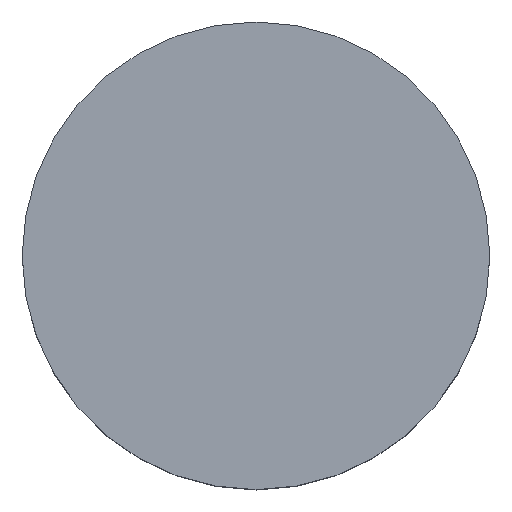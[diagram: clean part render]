
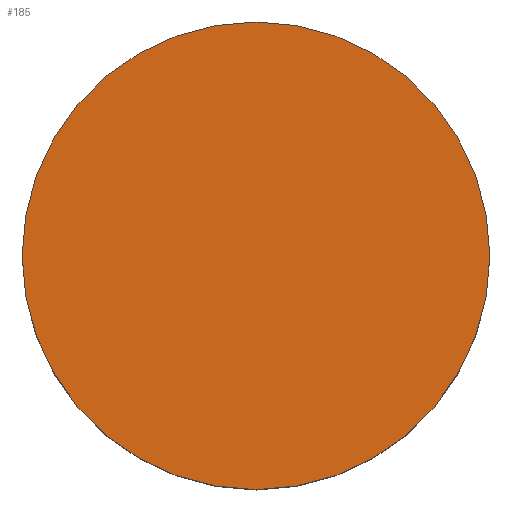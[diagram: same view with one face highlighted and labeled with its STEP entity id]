
A CAD part, top view. The second image highlights one B-rep face of the part: STEP entity #185.
In plain terms, the highlighted planar face has unit normal (0, 0, 1).
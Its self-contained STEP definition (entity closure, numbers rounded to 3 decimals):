
#185=ADVANCED_FACE('',(#233),#222,.T.);
#222=PLANE('',#622);
#233=FACE_OUTER_BOUND('',#261,.T.);
#261=EDGE_LOOP('',(#307,#308));
#307=ORIENTED_EDGE('',*,*,#497,.F.);
#308=ORIENTED_EDGE('',*,*,#498,.F.);
#451=VERTEX_POINT('',#907);
#452=VERTEX_POINT('',#908);
#497=EDGE_CURVE('',#451,#452,#569,.T.);
#498=EDGE_CURVE('',#452,#451,#570,.T.);
#569=CIRCLE('',#620,5.5);
#570=CIRCLE('',#621,5.5);
#620=AXIS2_PLACEMENT_3D('',#906,#709,#710);
#621=AXIS2_PLACEMENT_3D('',#909,#711,#712);
#622=AXIS2_PLACEMENT_3D('',#910,#713,#714);
#709=DIRECTION('',(0.,0.,-1.));
#710=DIRECTION('',(0.,1.,0.));
#711=DIRECTION('',(0.,0.,-1.));
#712=DIRECTION('',(0.,-1.,0.));
#713=DIRECTION('',(0.,0.,1.));
#714=DIRECTION('',(0.,-1.,0.));
#906=CARTESIAN_POINT('',(0.,0.,5.));
#907=CARTESIAN_POINT('',(5.5,0.,5.));
#908=CARTESIAN_POINT('',(-5.5,0.,5.));
#909=CARTESIAN_POINT('',(0.,0.,5.));
#910=CARTESIAN_POINT('',(0.,0.,5.));
